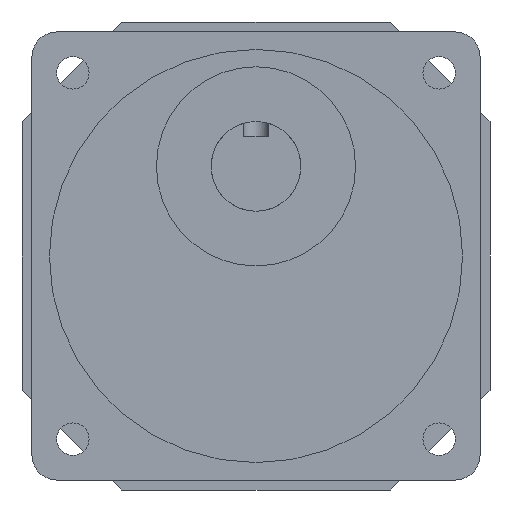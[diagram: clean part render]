
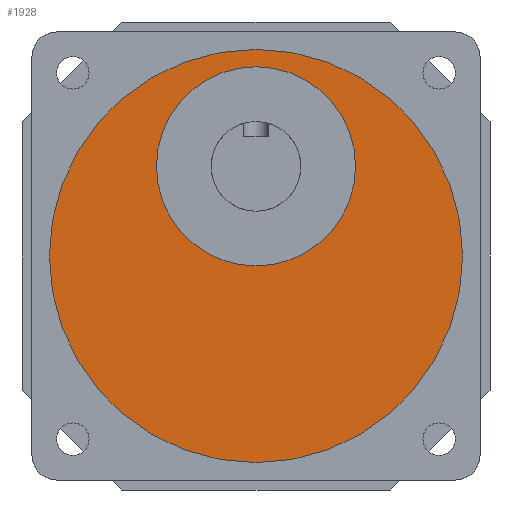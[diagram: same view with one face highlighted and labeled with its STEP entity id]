
A CAD part, front view. The second image highlights one B-rep face of the part: STEP entity #1928.
In plain terms, the highlighted planar face has unit normal (0, -1, 0).
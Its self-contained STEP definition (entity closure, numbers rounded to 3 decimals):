
#90 = DIRECTION ( 'NONE',  ( 0., 0., -1. ) ) ;
#212 = FACE_BOUND ( 'NONE', #5442, .T. ) ;
#502 = VERTEX_POINT ( 'NONE', #3749 ) ;
#702 = VERTEX_POINT ( 'NONE', #5611 ) ;
#754 = AXIS2_PLACEMENT_3D ( 'NONE', #3850, #2094, #2111 ) ;
#993 = ORIENTED_EDGE ( 'NONE', *, *, #5353, .T. ) ;
#1013 = CARTESIAN_POINT ( 'NONE',  ( 45., -83., 63. ) ) ;
#1127 = AXIS2_PLACEMENT_3D ( 'NONE', #1013, #2810, #3248 ) ;
#1308 = CIRCLE ( 'NONE', #1127, 20. ) ;
#1430 = CARTESIAN_POINT ( 'NONE',  ( 45., -83., 63. ) ) ;
#1615 = AXIS2_PLACEMENT_3D ( 'NONE', #1430, #4134, #2284 ) ;
#1655 = CARTESIAN_POINT ( 'NONE',  ( 45., -83., 3.5 ) ) ;
#1671 = DIRECTION ( 'NONE',  ( 0., 0., -1. ) ) ;
#1799 = ORIENTED_EDGE ( 'NONE', *, *, #5021, .F. ) ;
#1917 = CARTESIAN_POINT ( 'NONE',  ( 45., -83., 86.5 ) ) ;
#1928 = ADVANCED_FACE ( 'NONE', ( #212, #5040 ), #4319, .T. ) ;
#2083 = ORIENTED_EDGE ( 'NONE', *, *, #3956, .F. ) ;
#2094 = DIRECTION ( 'NONE',  ( 0., -1., 0. ) ) ;
#2108 = EDGE_CURVE ( 'NONE', #3122, #4551, #2517, .T. ) ;
#2111 = DIRECTION ( 'NONE',  ( 0., 0., -1. ) ) ;
#2284 = DIRECTION ( 'NONE',  ( 0., 0., -1. ) ) ;
#2517 = CIRCLE ( 'NONE', #4557, 41.5 ) ;
#2810 = DIRECTION ( 'NONE',  ( 0., -1., 0. ) ) ;
#3122 = VERTEX_POINT ( 'NONE', #1655 ) ;
#3248 = DIRECTION ( 'NONE',  ( 0., 0., -1. ) ) ;
#3566 = DIRECTION ( 'NONE',  ( 0., -1., 0. ) ) ;
#3749 = CARTESIAN_POINT ( 'NONE',  ( 45., -83., 83. ) ) ;
#3850 = CARTESIAN_POINT ( 'NONE',  ( 45., -83., 45. ) ) ;
#3894 = AXIS2_PLACEMENT_3D ( 'NONE', #4336, #5135, #1671 ) ;
#3956 = EDGE_CURVE ( 'NONE', #502, #702, #1308, .T. ) ;
#4134 = DIRECTION ( 'NONE',  ( 0., -1., 0. ) ) ;
#4196 = CIRCLE ( 'NONE', #754, 41.5 ) ;
#4319 = PLANE ( 'NONE',  #3894 ) ;
#4336 = CARTESIAN_POINT ( 'NONE',  ( 45., -83., 45. ) ) ;
#4551 = VERTEX_POINT ( 'NONE', #1917 ) ;
#4557 = AXIS2_PLACEMENT_3D ( 'NONE', #4937, #3566, #90 ) ;
#4937 = CARTESIAN_POINT ( 'NONE',  ( 45., -83., 45. ) ) ;
#5021 = EDGE_CURVE ( 'NONE', #702, #502, #5632, .T. ) ;
#5040 = FACE_OUTER_BOUND ( 'NONE', #5661, .T. ) ;
#5135 = DIRECTION ( 'NONE',  ( 0., -1., 0. ) ) ;
#5189 = ORIENTED_EDGE ( 'NONE', *, *, #2108, .T. ) ;
#5353 = EDGE_CURVE ( 'NONE', #4551, #3122, #4196, .T. ) ;
#5442 = EDGE_LOOP ( 'NONE', ( #2083, #1799 ) ) ;
#5611 = CARTESIAN_POINT ( 'NONE',  ( 45., -83., 43. ) ) ;
#5632 = CIRCLE ( 'NONE', #1615, 20. ) ;
#5661 = EDGE_LOOP ( 'NONE', ( #5189, #993 ) ) ;
